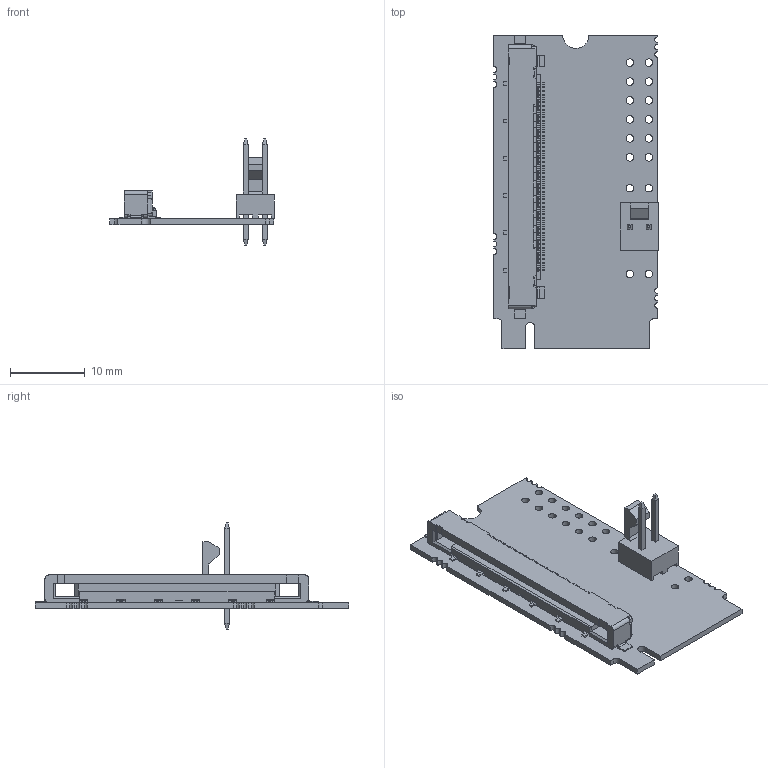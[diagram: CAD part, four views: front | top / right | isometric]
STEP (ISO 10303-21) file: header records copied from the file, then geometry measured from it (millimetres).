
FILE_DESCRIPTION(/* description */ ('step model'),/* implementation_level */ '2;1');
FILE_NAME(/* name */ 'ADPT-MX-X4G2-M2-FL.stp',/* time_stamp */ '2017-09-04T14:36:34+02:00',/* author */ ('Spano'),/* organization */ ('Ximea'),/* preprocessor_version */ 'ST-DEVELOPER v16',/* originating_system */ 'SIEMENS PLM Software NX 11.0',/* authorisation */ '');
FILE_SCHEMA (('AUTOMOTIVE_DESIGN { 1 0 10303 214 3 1 1 1 }'));
Length unit declared in the file: millimetre
Products named in the file (1): ADPT-MX-X4G2-M2-FL
Bounding box: 22.04 x 42 x 14.22 mm (x, y, z)
Volume: 1210.3 mm3; surface area: 3046.7 mm2
Topology: 5 solids, 5 shells, 1570 faces, 4421 edges, 2894 vertices
Faces by surface type: plane 1223, cylinder 347
Full cylindrical faces by diameter (mm): 1 x18
Entity records: 50713 total; most frequent: CARTESIAN_POINT 9204, ORIENTED_EDGE 8842, DIRECTION 8277, EDGE_CURVE 4421, LINE 3575, VECTOR 3575, VERTEX_POINT 2894, AXIS2_PLACEMENT_3D 2351
